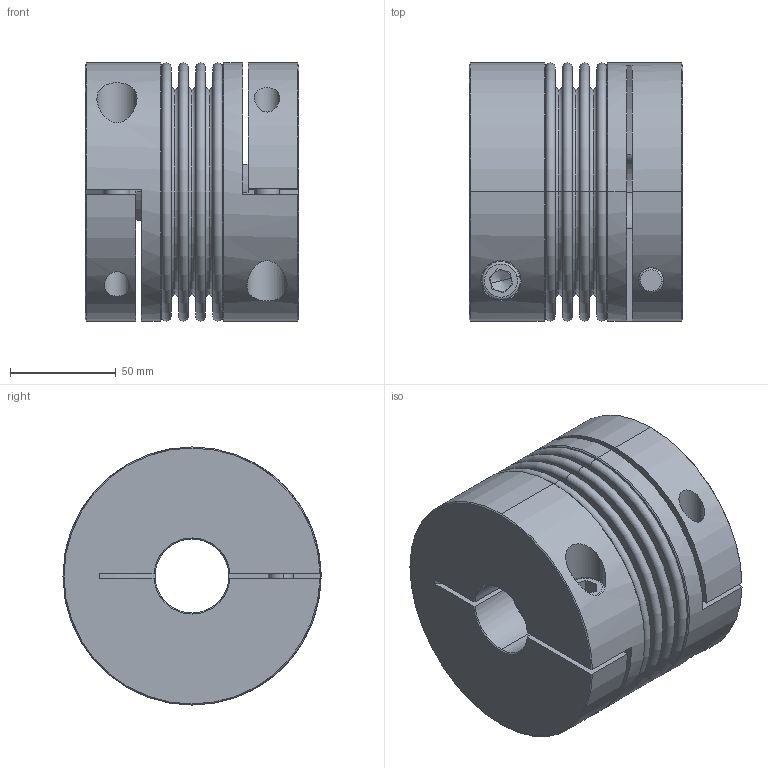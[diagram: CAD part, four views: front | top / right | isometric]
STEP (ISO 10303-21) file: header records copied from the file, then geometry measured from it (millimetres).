
FILE_DESCRIPTION (( 'STEP AP214' ), '1' );
FILE_NAME ('KB4C-500-100.STEP', '2011-01-19T18:12:49', ( '' ), ( 'KAPCAD' ), 'SwSTEP 2.0', 'SolidWorks 2002296', '' );
FILE_SCHEMA (( 'AUTOMOTIVE_DESIGN' ));
Length unit declared in the file: millimetre
Products named in the file (4): KB4C-500-100; KN500C_Standard; BK500_Standard; Socket Head Cap Screw_DIN_DIN 912 M12 x 50 --- 50N
Assembly tree (5 placements, depth 2):
  KB4C-500-100
    Socket Head Cap Screw_DIN_DIN 912 M12 x 50 --- 50N  x2
    BK500_Standard
    KN500C_Standard  x2
Bounding box: 100.95 x 122 x 122 mm (x, y, z)
Volume: 751349 mm3; surface area: 198613.5 mm2
Topology: 5 solids, 5 shells, 182 faces, 412 edges, 256 vertices
Faces by surface type: plane 66, torus 48, cylinder 44, cone 24
Entity records: 3793 total; most frequent: CARTESIAN_POINT 773, DIRECTION 710, ORIENTED_EDGE 540, AXIS2_PLACEMENT_3D 319, EDGE_CURVE 270, CIRCLE 187, VERTEX_POINT 170, EDGE_LOOP 150
